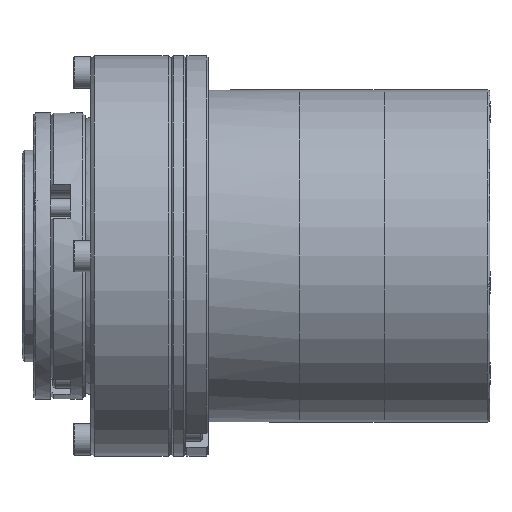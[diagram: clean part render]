
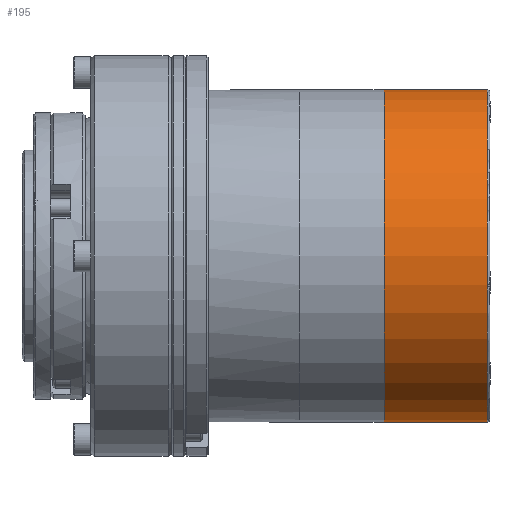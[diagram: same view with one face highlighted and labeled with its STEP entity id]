
A CAD part, left-side view. The second image highlights one B-rep face of the part: STEP entity #195.
In plain terms, the highlighted cylindrical face has radius 29 mm (diameter 58 mm), a full revolution.
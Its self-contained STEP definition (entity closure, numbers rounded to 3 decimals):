
#195 = ADVANCED_FACE ( 'NONE', ( #20450, #3397 ), #18476, .T. ) ;
#644 = AXIS2_PLACEMENT_3D ( 'NONE', #23269, #21277, #4343 ) ;
#1036 = AXIS2_PLACEMENT_3D ( 'NONE', #2198, #1965, #15454 ) ;
#1235 = EDGE_LOOP ( 'NONE', ( #8159 ) ) ;
#1777 = DIRECTION ( 'NONE',  ( 0., 0., 1. ) ) ;
#1842 = CIRCLE ( 'NONE', #1036, 29. ) ;
#1965 = DIRECTION ( 'NONE',  ( 0., 0., -1. ) ) ;
#2198 = CARTESIAN_POINT ( 'NONE',  ( 0., 0., -0.5 ) ) ;
#3272 = CARTESIAN_POINT ( 'NONE',  ( 0., 0., 21.794 ) ) ;
#3397 = FACE_OUTER_BOUND ( 'NONE', #12691, .T. ) ;
#4343 = DIRECTION ( 'NONE',  ( 1., 0., 0. ) ) ;
#6806 = EDGE_CURVE ( 'NONE', #20087, #20087, #1842, .T. ) ;
#8159 = ORIENTED_EDGE ( 'NONE', *, *, #6806, .T. ) ;
#9331 = DIRECTION ( 'NONE',  ( 1., 0., 0. ) ) ;
#11702 = CIRCLE ( 'NONE', #644, 29. ) ;
#11869 = AXIS2_PLACEMENT_3D ( 'NONE', #3272, #1777, #9331 ) ;
#12691 = EDGE_LOOP ( 'NONE', ( #17416 ) ) ;
#15454 = DIRECTION ( 'NONE',  ( 1., 0., 0. ) ) ;
#17416 = ORIENTED_EDGE ( 'NONE', *, *, #21618, .T. ) ;
#17499 = CARTESIAN_POINT ( 'NONE',  ( 29., 0., -18.5 ) ) ;
#18070 = VERTEX_POINT ( 'NONE', #17499 ) ;
#18476 = CYLINDRICAL_SURFACE ( 'NONE', #11869, 29. ) ;
#20087 = VERTEX_POINT ( 'NONE', #22317 ) ;
#20450 = FACE_OUTER_BOUND ( 'NONE', #1235, .T. ) ;
#21277 = DIRECTION ( 'NONE',  ( 0., 0., 1. ) ) ;
#21618 = EDGE_CURVE ( 'NONE', #18070, #18070, #11702, .T. ) ;
#22317 = CARTESIAN_POINT ( 'NONE',  ( 29., 0., -0.5 ) ) ;
#23269 = CARTESIAN_POINT ( 'NONE',  ( 0., 0., -18.5 ) ) ;
